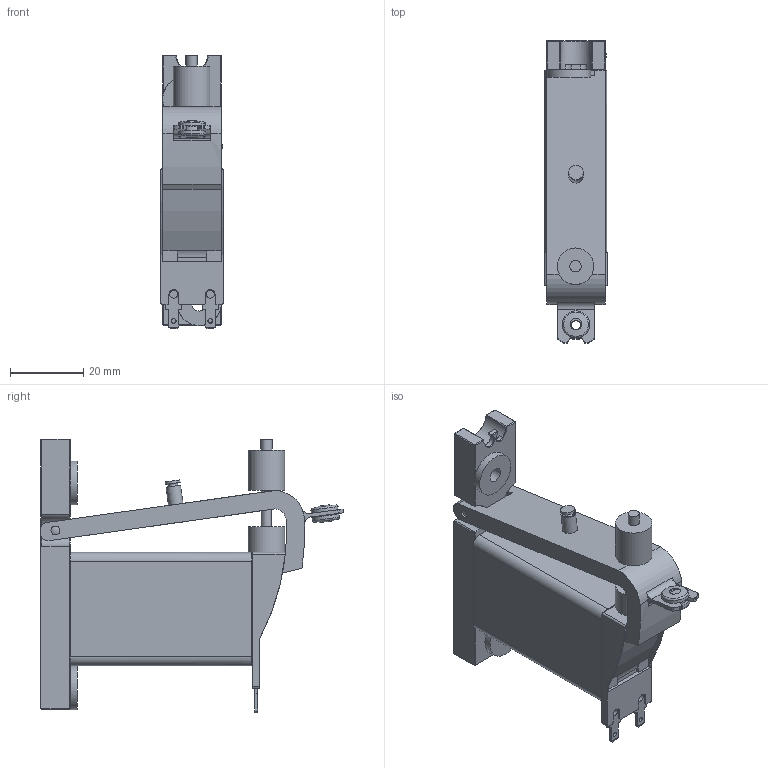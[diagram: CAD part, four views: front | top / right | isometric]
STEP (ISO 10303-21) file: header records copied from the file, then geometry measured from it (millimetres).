
FILE_DESCRIPTION(/* description */ (''),/* implementation_level */ '2;1');
FILE_NAME(/* name */ 'C:\Users\t.heuss\Desktop\Kundezeichung\5005-800_Kundenzeichnung.stp',/* time_stamp */ '2023-02-10T11:17:42+01:00',/* author */ ('t.heuss'),/* organization */ (''),/* preprocessor_version */ 'ST-DEVELOPER v17',/* originating_system */ 'Autodesk Inventor 2018',/* authorisation */ '');
FILE_SCHEMA (('AUTOMOTIVE_DESIGN { 1 0 10303 214 3 1 1 }'));
Length unit declared in the file: millimetre
Products named in the file (1): 5005-800_Kundenzeichnung
Bounding box: 17.14 x 82.87 x 74.88 mm (x, y, z)
Volume: 32302.4 mm3; surface area: 29493 mm2
Topology: 1 solids, 3 shells, 338 faces, 919 edges, 582 vertices
Faces by surface type: plane 195, cylinder 107, cone 23, sphere 8, torus 3, bspline 2
Full cylindrical faces by diameter (mm): 1.3 x2, 2.2 x2, 2.45 x1, 2.5 x4, 2.8 x1, 3 x3, 3.1 x1, 3.5 x1, 4 x6, 4.134 x1, 5.1 x1, 5.5 x3, 6.5 x1, 7.5 x2, 10 x2, 12 x1
Entity records: 11578 total; most frequent: CARTESIAN_POINT 2346, DIRECTION 1884, ORIENTED_EDGE 1838, EDGE_CURVE 919, AXIS2_PLACEMENT_3D 663, VERTEX_POINT 582, LINE 558, VECTOR 558
